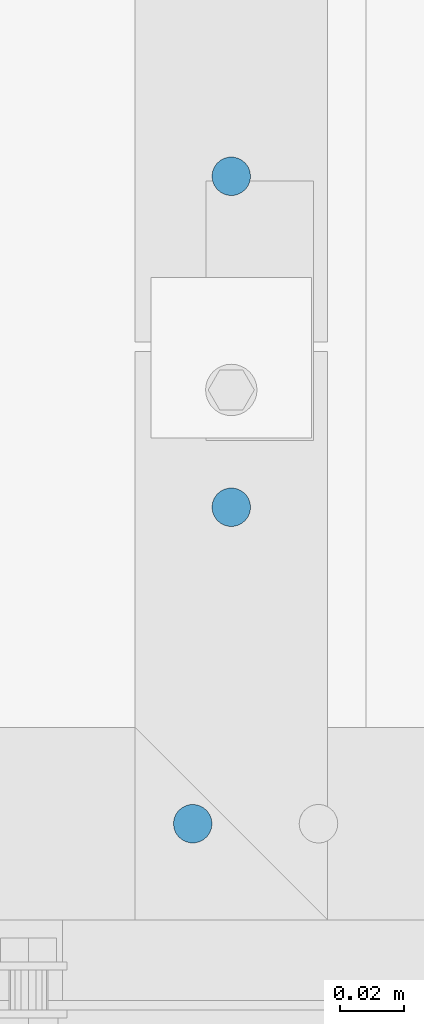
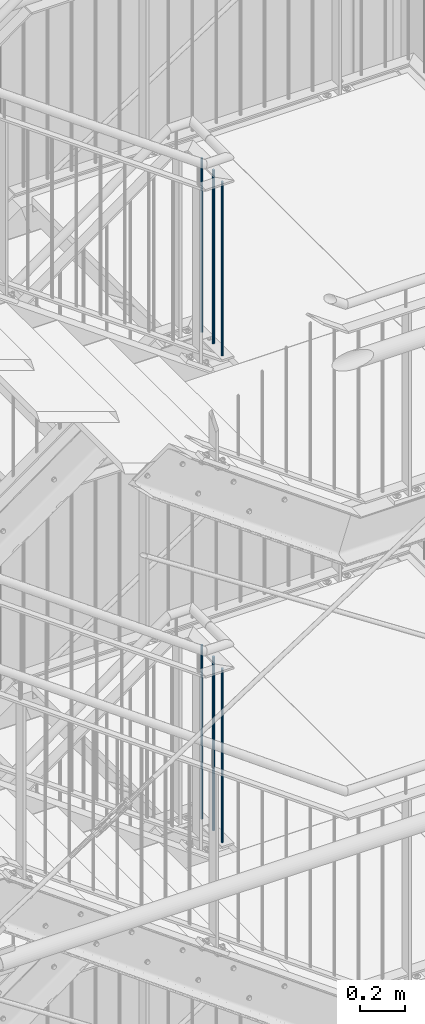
# One storey, part 61 of 831: 6 columns.
"""IFC2X3 building model written with IfcOpenShell, lengths in millimetres."""

from ifc_helpers import new_model, entity, si_unit, converted_unit, frame, origin, origin_with_axes, origin_2d, place, context, project, spatial, circle, extrude, material, element, save


model = new_model("IFC2X3")

# Units and contexts
model_context = context("Model", 3, precision=1e-09, world=origin_with_axes())
ifc_project = project(units=[si_unit("LENGTHUNIT", "METRE", prefix="MILLI"), si_unit("AREAUNIT", "SQUARE_METRE"), si_unit("VOLUMEUNIT", "CUBIC_METRE"), converted_unit("PLANEANGLEUNIT", "DEGREE", entity("IfcPlaneAngleMeasure", 0.01745329), si_unit("PLANEANGLEUNIT", "RADIAN"), dimensions=[0, 0, 0, 0, 0, 0, 0])], contexts=[model_context])

# Site, building, storey
site_placement = place(None, origin_with_axes())
site = spatial("IfcSite", under=ifc_project, at=site_placement, Name="Site", CompositionType="ELEMENT")
building_placement = place(site_placement, origin_with_axes())
building = spatial("IfcBuilding", under=site, at=building_placement, Name="Struktur 1", CompositionType="ELEMENT")
storey_placement = place(building_placement, origin_with_axes())
storey = spatial("IfcBuildingStorey", under=building, at=storey_placement, Name="Default Storey", CompositionType="ELEMENT", Elevation=0.0)

# Columns
ifc_material = material(Name="S235JR")
for number, where, z_axis, x_axis, name in (
    (1, (7152.822212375, 5791.736971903, 17532.8000003), (0.0, 0.0, 1.0), (-1.0, 0.0, 0.0), "Railing_Picket_Stair#0"),
    (2, (7164.822212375, 5890.236971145, 17532.8000003), (0.0, 0.0, 1.0), (-1.0, 0.0, 0.0), "Railing_Picket_Stair#0"),
    (3, (7164.822212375, 5993.236971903, 17532.8000003), (0.0, 0.0, 1.0), (-1.0, 0.0, 0.0), "Railing_Picket_Stair#0"),
    (4, (7152.822212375, 5791.736971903, 14905.3000001), (0.0, 0.0, 1.0), (-1.0, 0.0, 0.0), "Railing_Picket_Stair#0"),
    (5, (7164.822212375, 5890.236971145, 14905.3000001), (0.0, 0.0, 1.0), (-1.0, 0.0, 0.0), "Railing_Picket_Stair#0"),
    (6, (7164.822212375, 5993.236971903, 14905.3000001), (0.0, 0.0, 1.0), (-1.0, 0.0, 0.0), "Railing_Picket_Stair#0"),
):
    element("IfcColumn", number, at=place(None, frame(where, z_axis=z_axis, x_axis=x_axis)), inside=storey, material=ifc_material, Name=name, ObjectType="Railing_Picket_Stair#0", context=model_context, shape_type="SweptSolid", body=[
        extrude(circle(Radius=6.0, at=origin_2d()), origin(), (0.0, 0.0, -1.0), 938.8),
    ])

save(model, "model.ifc")
